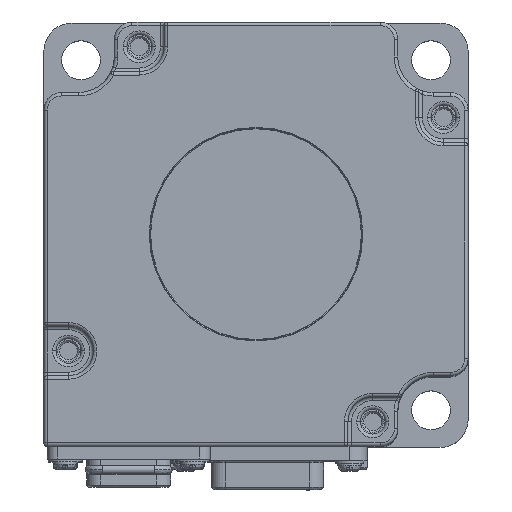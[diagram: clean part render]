
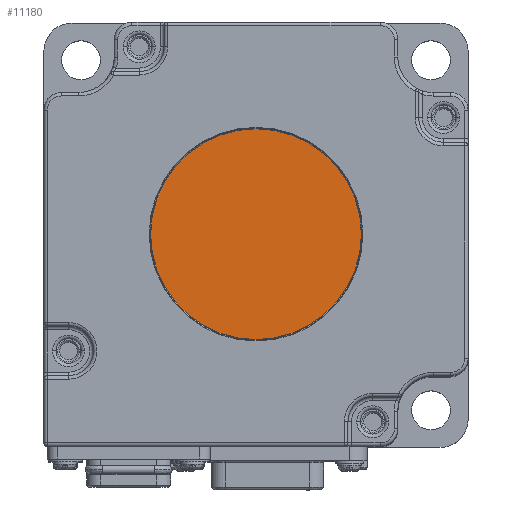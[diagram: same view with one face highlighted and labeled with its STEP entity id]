
A CAD part, top view. The second image highlights one B-rep face of the part: STEP entity #11180.
In plain terms, the highlighted planar face has unit normal (0, 0, 1) as drawn and (0, 0, -1) by its records, which use the part's own axes.
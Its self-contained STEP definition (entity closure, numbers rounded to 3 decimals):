
#5587 = CARTESIAN_POINT ( 'NONE',  ( -14.9, 0., 0.3 ) ) ;
#7832 = DIRECTION ( 'NONE',  ( -1., 0., 0. ) ) ;
#11180 = ADVANCED_FACE ( 'NONE', ( #88694 ), #98362, .T. ) ;
#16043 = DIRECTION ( 'NONE',  ( 0., 0., -1. ) ) ;
#17925 = CARTESIAN_POINT ( 'NONE',  ( 0., 0., 0.3 ) ) ;
#23973 = ORIENTED_EDGE ( 'NONE', *, *, #58173, .T. ) ;
#26703 = AXIS2_PLACEMENT_3D ( 'NONE', #17925, #16043, #85126 ) ;
#29838 = CARTESIAN_POINT ( 'NONE',  ( 0., 0., 0.3 ) ) ;
#30712 = CARTESIAN_POINT ( 'NONE',  ( 0., 0., 0.3 ) ) ;
#54317 = VERTEX_POINT ( 'NONE', #5587 ) ;
#54901 = AXIS2_PLACEMENT_3D ( 'NONE', #29838, #142155, #7832 ) ;
#55776 = CARTESIAN_POINT ( 'NONE',  ( 14.9, 0., 0.3 ) ) ;
#58173 = EDGE_CURVE ( 'NONE', #122182, #54317, #77554, .T. ) ;
#61576 = AXIS2_PLACEMENT_3D ( 'NONE', #30712, #131717, #64582 ) ;
#64582 = DIRECTION ( 'NONE',  ( -1., 0., 0. ) ) ;
#70076 = CIRCLE ( 'NONE', #26703, 14.9 ) ;
#72082 = EDGE_LOOP ( 'NONE', ( #77828, #23973 ) ) ;
#77554 = CIRCLE ( 'NONE', #54901, 14.9 ) ;
#77828 = ORIENTED_EDGE ( 'NONE', *, *, #130241, .T. ) ;
#85126 = DIRECTION ( 'NONE',  ( -1., 0., 0. ) ) ;
#88694 = FACE_OUTER_BOUND ( 'NONE', #72082, .T. ) ;
#98362 = PLANE ( 'NONE',  #61576 ) ;
#122182 = VERTEX_POINT ( 'NONE', #55776 ) ;
#130241 = EDGE_CURVE ( 'NONE', #54317, #122182, #70076, .T. ) ;
#131717 = DIRECTION ( 'NONE',  ( 0., 0., -1. ) ) ;
#142155 = DIRECTION ( 'NONE',  ( 0., 0., -1. ) ) ;
